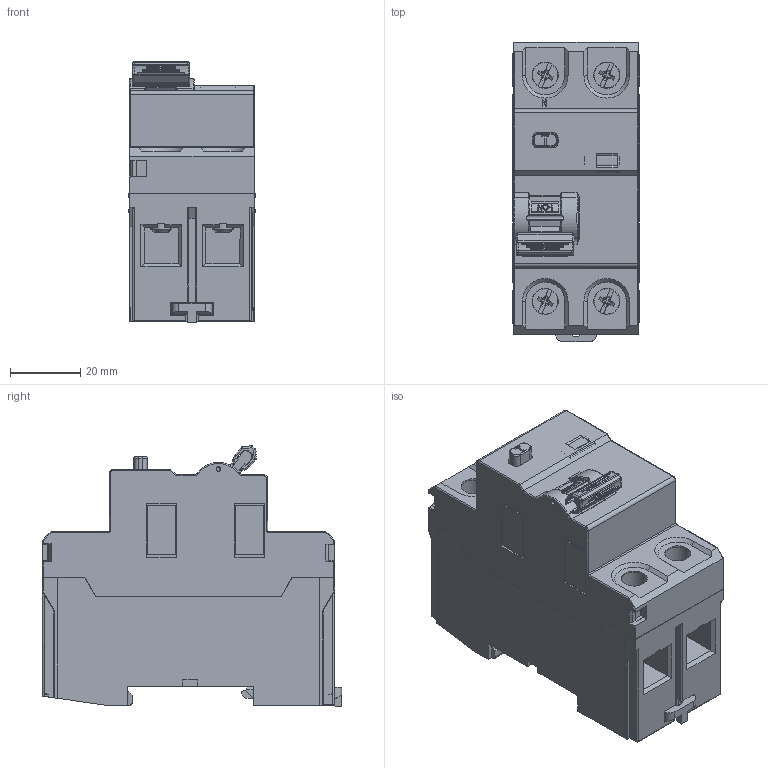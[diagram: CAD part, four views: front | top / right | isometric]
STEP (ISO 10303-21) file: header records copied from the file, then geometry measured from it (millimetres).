
FILE_DESCRIPTION (( 'STEP AP203' ), '1' );
FILE_NAME ('RDW-RDWS-RDWH_2.STEP', '2019-06-24T13:43:41', ( 'Usuário do Windows' ), ( 'WEG Equipamentos Elétricos' ), 'SwSTEP 2.0', 'SolidWorks 2018', '' );
FILE_SCHEMA (( 'CONFIG_CONTROL_DESIGN' ));
Length unit declared in the file: millimetre
Products named in the file (2): RDW-RDWS-RDWH_2
Bounding box: 35.8 x 85 x 74.12 mm (x, y, z)
Volume: 159059.9 mm3; surface area: 36823.4 mm2
Topology: 13 solids, 22 shells, 1317 faces, 3444 edges, 2199 vertices
Faces by surface type: plane 845, cylinder 241, bspline 117, cone 57, torus 33, sphere 24
Entity records: 42867 total; most frequent: CARTESIAN_POINT 11861, ORIENTED_EDGE 6852, DIRECTION 5788, EDGE_CURVE 3426, LINE 2358, VECTOR 2358, VERTEX_POINT 2199, AXIS2_PLACEMENT_3D 1715
